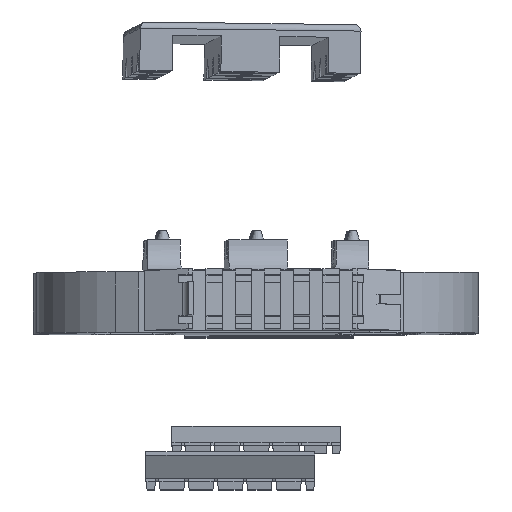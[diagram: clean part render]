
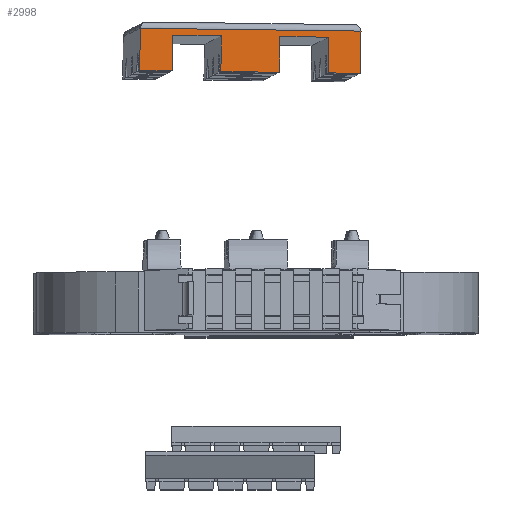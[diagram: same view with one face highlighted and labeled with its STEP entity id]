
A CAD part, top view. The second image highlights one B-rep face of the part: STEP entity #2998.
In plain terms, the highlighted planar face has unit normal (0.043, 0.02, 0.999) as drawn and (1, 0, 0) by its records, which use the part's own axes.
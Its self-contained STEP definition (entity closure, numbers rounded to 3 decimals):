
#2998=ADVANCED_FACE('',(#7952),#7954,.T.);
#7952=FACE_BOUND('',#7953,.T.);
#7953=EDGE_LOOP('',(#11870,#11871,#11872,#11873,#11874,#11875,#11876,#11877,#11878,
#11879,#11880,#11881));
#7954=PLANE('',#7955);
#7955=AXIS2_PLACEMENT_3D('',#7956,#7957,#7958);
#7956=CARTESIAN_POINT('',(-40.001,-34.,0.));
#7957=DIRECTION('',(1.,0.,0.));
#7958=DIRECTION('',(0.,1.,0.));
#11870=ORIENTED_EDGE('',*,*,#14068,.T.);
#11871=ORIENTED_EDGE('',*,*,#14060,.T.);
#11872=ORIENTED_EDGE('',*,*,#14069,.F.);
#11873=ORIENTED_EDGE('',*,*,#14044,.T.);
#11874=ORIENTED_EDGE('',*,*,#14070,.T.);
#11875=ORIENTED_EDGE('',*,*,#13996,.T.);
#11876=ORIENTED_EDGE('',*,*,#14071,.F.);
#11877=ORIENTED_EDGE('',*,*,#13990,.T.);
#11878=ORIENTED_EDGE('',*,*,#14067,.T.);
#11879=ORIENTED_EDGE('',*,*,#14031,.T.);
#11880=ORIENTED_EDGE('',*,*,#14072,.F.);
#11881=ORIENTED_EDGE('',*,*,#14024,.F.);
#13990=EDGE_CURVE('',#15839,#15837,#15840,.F.);
#13996=EDGE_CURVE('',#15849,#15847,#15850,.F.);
#14024=EDGE_CURVE('',#15896,#15898,#15899,.T.);
#14031=EDGE_CURVE('',#15909,#15907,#15910,.F.);
#14044=EDGE_CURVE('',#15930,#15928,#15931,.F.);
#14060=EDGE_CURVE('',#15938,#15957,#15959,.T.);
#14067=EDGE_CURVE('',#15837,#15909,#15972,.T.);
#14068=EDGE_CURVE('',#15896,#15938,#15973,.T.);
#14069=EDGE_CURVE('',#15930,#15957,#15974,.T.);
#14070=EDGE_CURVE('',#15928,#15849,#15975,.T.);
#14071=EDGE_CURVE('',#15839,#15847,#15976,.T.);
#14072=EDGE_CURVE('',#15898,#15907,#15977,.T.);
#15837=VERTEX_POINT('',#19797);
#15839=VERTEX_POINT('',#19801);
#15840=LINE('',#19802,#19803);
#15847=VERTEX_POINT('',#19821);
#15849=VERTEX_POINT('',#19825);
#15850=LINE('',#19826,#19827);
#15896=VERTEX_POINT('',#20105);
#15898=VERTEX_POINT('',#20109);
#15899=LINE('',#20110,#20111);
#15907=VERTEX_POINT('',#20133);
#15909=VERTEX_POINT('',#20137);
#15910=LINE('',#20138,#20139);
#15928=VERTEX_POINT('',#20190);
#15930=VERTEX_POINT('',#20194);
#15931=LINE('',#20195,#20196);
#15938=VERTEX_POINT('',#20214);
#15957=VERTEX_POINT('',#20322);
#15959=LINE('',#20326,#20327);
#15972=LINE('',#20359,#20360);
#15973=LINE('',#20362,#20363);
#15974=LINE('',#20365,#20366);
#15975=LINE('',#20368,#20369);
#15976=LINE('',#20371,#20372);
#15977=LINE('',#20374,#20375);
#19797=CARTESIAN_POINT('',(-40.001,-9.,4.));
#19801=CARTESIAN_POINT('',(-40.001,-9.,15.));
#19802=CARTESIAN_POINT('',(-40.001,-9.,4.));
#19803=VECTOR('',#19804,1.);
#19804=DIRECTION('',(0.,0.,1.));
#19821=CARTESIAN_POINT('',(-40.001,9.,15.));
#19825=CARTESIAN_POINT('',(-40.001,9.,4.));
#19826=CARTESIAN_POINT('',(-40.001,9.,15.));
#19827=VECTOR('',#19828,1.);
#19828=DIRECTION('',(0.,0.,-1.));
#20105=CARTESIAN_POINT('',(-40.001,-34.,2.));
#20109=CARTESIAN_POINT('',(-40.001,-34.,15.));
#20110=CARTESIAN_POINT('',(-40.001,-34.,2.));
#20111=VECTOR('',#20112,1.);
#20112=DIRECTION('',(0.,0.,1.));
#20133=CARTESIAN_POINT('',(-40.001,-24.,15.));
#20137=CARTESIAN_POINT('',(-40.001,-24.,4.));
#20138=CARTESIAN_POINT('',(-40.001,-24.,15.));
#20139=VECTOR('',#20140,1.);
#20140=DIRECTION('',(0.,0.,-1.));
#20190=CARTESIAN_POINT('',(-40.001,24.,4.));
#20194=CARTESIAN_POINT('',(-40.001,24.,15.));
#20195=CARTESIAN_POINT('',(-40.001,24.,4.));
#20196=VECTOR('',#20197,1.);
#20197=DIRECTION('',(0.,0.,1.));
#20214=CARTESIAN_POINT('',(-40.001,34.,2.));
#20322=CARTESIAN_POINT('',(-40.001,34.,15.));
#20326=CARTESIAN_POINT('',(-40.001,34.,2.));
#20327=VECTOR('',#20328,1.);
#20328=DIRECTION('',(0.,0.,1.));
#20359=CARTESIAN_POINT('',(-40.001,-9.,4.));
#20360=VECTOR('',#20361,1.);
#20361=DIRECTION('',(0.,-1.,0.));
#20362=CARTESIAN_POINT('',(-40.001,-34.,2.));
#20363=VECTOR('',#20364,1.);
#20364=DIRECTION('',(0.,1.,0.));
#20365=CARTESIAN_POINT('',(-40.001,24.,15.));
#20366=VECTOR('',#20367,1.);
#20367=DIRECTION('',(0.,1.,0.));
#20368=CARTESIAN_POINT('',(-40.001,24.,4.));
#20369=VECTOR('',#20370,1.);
#20370=DIRECTION('',(0.,-1.,0.));
#20371=CARTESIAN_POINT('',(-40.001,-9.,15.));
#20372=VECTOR('',#20373,1.);
#20373=DIRECTION('',(0.,1.,0.));
#20374=CARTESIAN_POINT('',(-40.001,-34.,15.));
#20375=VECTOR('',#20376,1.);
#20376=DIRECTION('',(0.,1.,0.));
